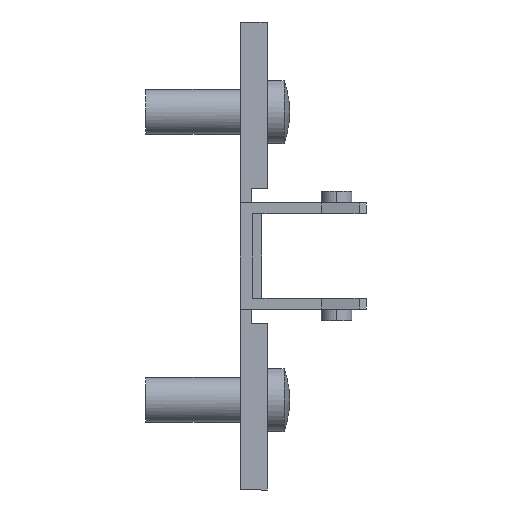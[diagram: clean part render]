
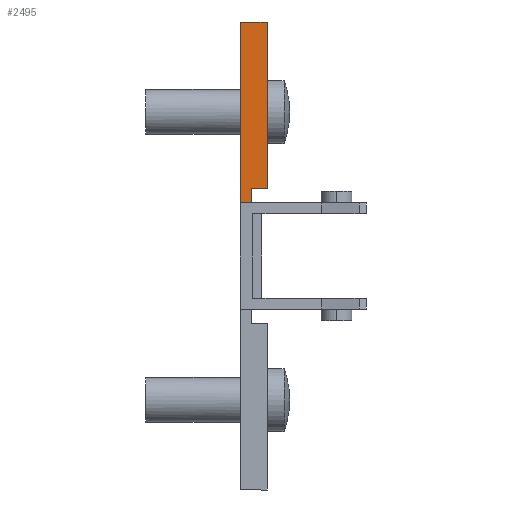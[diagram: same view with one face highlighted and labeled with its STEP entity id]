
A CAD part, front view. The second image highlights one B-rep face of the part: STEP entity #2495.
In plain terms, the highlighted planar face has unit normal (0, -1, 0).
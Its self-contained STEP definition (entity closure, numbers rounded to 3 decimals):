
#38 = EDGE_LOOP ( 'NONE', ( #325, #326, #245, #240, #246, #140 ) ) ;
#140 = ORIENTED_EDGE ( 'NONE', *, *, #2180, .F. ) ;
#240 = ORIENTED_EDGE ( 'NONE', *, *, #2247, .F. ) ;
#245 = ORIENTED_EDGE ( 'NONE', *, *, #1477, .F. ) ;
#246 = ORIENTED_EDGE ( 'NONE', *, *, #2189, .F. ) ;
#325 = ORIENTED_EDGE ( 'NONE', *, *, #2182, .F. ) ;
#326 = ORIENTED_EDGE ( 'NONE', *, *, #2317, .F. ) ;
#469 = FACE_OUTER_BOUND ( 'NONE', #38, .T. ) ;
#720 = VECTOR ( 'NONE', #2881, 1000. ) ;
#721 = LINE ( 'NONE', #2880, #720 ) ;
#832 = VECTOR ( 'NONE', #2744, 1000. ) ;
#850 = LINE ( 'NONE', #2736, #832 ) ;
#941 = VECTOR ( 'NONE', #2621, 1000. ) ;
#943 = LINE ( 'NONE', #2609, #941 ) ;
#1050 = VECTOR ( 'NONE', #1862, 1000. ) ;
#1051 = LINE ( 'NONE', #1861, #1050 ) ;
#1135 = VERTEX_POINT ( 'NONE', #1570 ) ;
#1136 = VERTEX_POINT ( 'NONE', #1571 ) ;
#1170 = VERTEX_POINT ( 'NONE', #1605 ) ;
#1171 = VERTEX_POINT ( 'NONE', #1606 ) ;
#1221 = VERTEX_POINT ( 'NONE', #1656 ) ;
#1222 = VERTEX_POINT ( 'NONE', #1657 ) ;
#1275 = VECTOR ( 'NONE', #1278, 1000. ) ;
#1278 = DIRECTION ( 'NONE',  ( 0., 0., 1. ) ) ;
#1460 = AXIS2_PLACEMENT_3D ( 'NONE', #3255, #3258, #3259 ) ;
#1477 = EDGE_CURVE ( 'NONE', #1222, #1221, #1905, .T. ) ;
#1570 = CARTESIAN_POINT ( 'NONE',  ( 0., -9., 26. ) ) ;
#1571 = CARTESIAN_POINT ( 'NONE',  ( 0., -9., 5.9 ) ) ;
#1605 = CARTESIAN_POINT ( 'NONE',  ( 3., -9., 26. ) ) ;
#1606 = CARTESIAN_POINT ( 'NONE',  ( 3., -9., 7.5 ) ) ;
#1656 = CARTESIAN_POINT ( 'NONE',  ( 1.2, -9., 5.9 ) ) ;
#1657 = CARTESIAN_POINT ( 'NONE',  ( 1.2, -9., 7.5 ) ) ;
#1808 = CARTESIAN_POINT ( 'NONE',  ( 1.2, -9., 7.5 ) ) ;
#1814 = DIRECTION ( 'NONE',  ( 0., 0., -1. ) ) ;
#1858 = CARTESIAN_POINT ( 'NONE',  ( 0., -9., 5. ) ) ;
#1861 = CARTESIAN_POINT ( 'NONE',  ( 0., -9., 26. ) ) ;
#1862 = DIRECTION ( 'NONE',  ( 1., 0., 0. ) ) ;
#1897 = VECTOR ( 'NONE', #1814, 1000. ) ;
#1905 = LINE ( 'NONE', #1808, #1897 ) ;
#2173 = LINE ( 'NONE', #1858, #1275 ) ;
#2180 = EDGE_CURVE ( 'NONE', #1135, #1170, #1051, .T. ) ;
#2182 = EDGE_CURVE ( 'NONE', #1136, #1135, #2173, .T. ) ;
#2189 = EDGE_CURVE ( 'NONE', #1170, #1171, #943, .T. ) ;
#2247 = EDGE_CURVE ( 'NONE', #1171, #1222, #850, .T. ) ;
#2317 = EDGE_CURVE ( 'NONE', #1221, #1136, #721, .T. ) ;
#2495 = ADVANCED_FACE ( 'NONE', ( #469 ), #3256, .F. ) ;
#2609 = CARTESIAN_POINT ( 'NONE',  ( 3., -9., 26. ) ) ;
#2621 = DIRECTION ( 'NONE',  ( 0., 0., -1. ) ) ;
#2736 = CARTESIAN_POINT ( 'NONE',  ( 3., -9., 7.5 ) ) ;
#2744 = DIRECTION ( 'NONE',  ( -1., 0., 0. ) ) ;
#2880 = CARTESIAN_POINT ( 'NONE',  ( 0., -9., 5.9 ) ) ;
#2881 = DIRECTION ( 'NONE',  ( -1., 0., 0. ) ) ;
#3255 = CARTESIAN_POINT ( 'NONE',  ( 0., -9., 5. ) ) ;
#3256 = PLANE ( 'NONE',  #1460 ) ;
#3258 = DIRECTION ( 'NONE',  ( 0., 1., 0. ) ) ;
#3259 = DIRECTION ( 'NONE',  ( 0., 0., 1. ) ) ;
